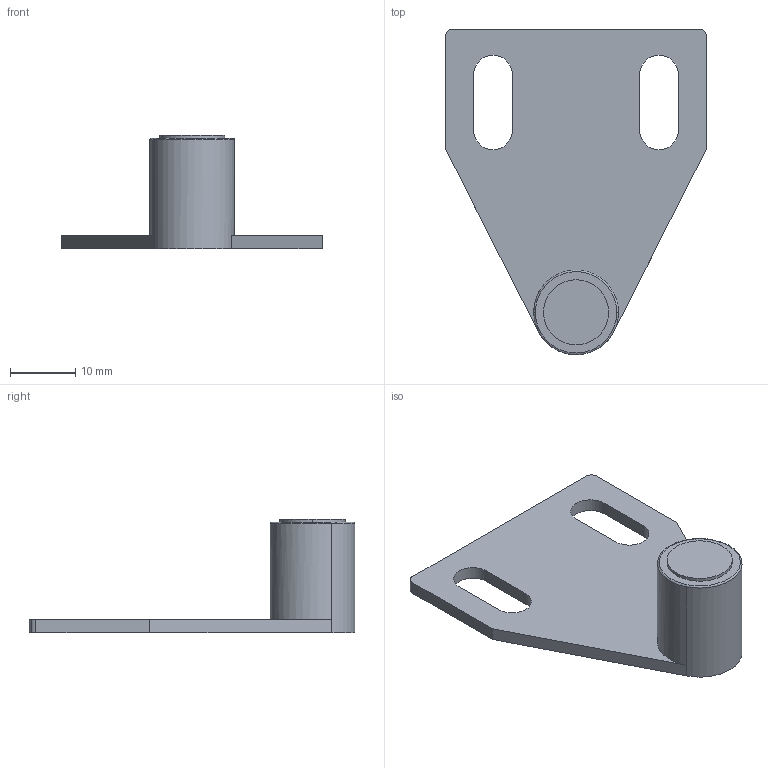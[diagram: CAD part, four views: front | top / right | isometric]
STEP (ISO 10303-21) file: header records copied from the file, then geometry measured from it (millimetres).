
FILE_DESCRIPTION (( 'STEP AP214' ), '1' );
FILE_NAME ('1.4036 Ovimagneetti C 13x15.STEP', '2025-09-15T07:03:28', ( '' ), ( '' ), 'SwSTEP 2.0', 'SolidWorks 2025', '' );
FILE_SCHEMA (( 'AUTOMOTIVE_DESIGN' ));
Length unit declared in the file: millimetre
Products named in the file (1): 1.4036 Ovimagneetti C 13x15
Bounding box: 40 x 50 x 17.5 mm (x, y, z)
Volume: 4691.8 mm3; surface area: 3735.7 mm2
Topology: 1 solids, 1 shells, 27 faces, 71 edges, 47 vertices
Faces by surface type: plane 13, cylinder 12, torus 2
Entity records: 879 total; most frequent: DIRECTION 158, CARTESIAN_POINT 146, ORIENTED_EDGE 142, EDGE_CURVE 71, AXIS2_PLACEMENT_3D 59, VERTEX_POINT 47, LINE 40, VECTOR 40
